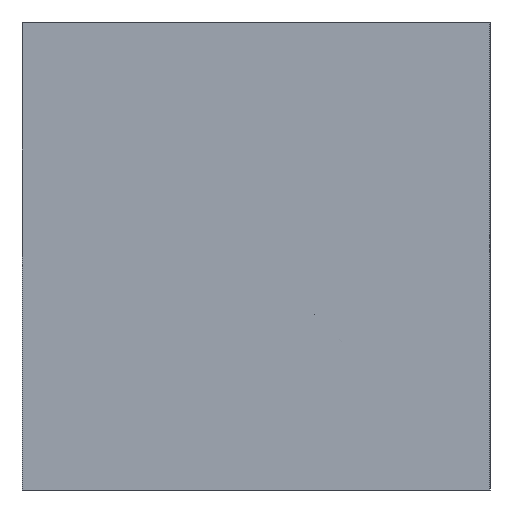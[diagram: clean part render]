
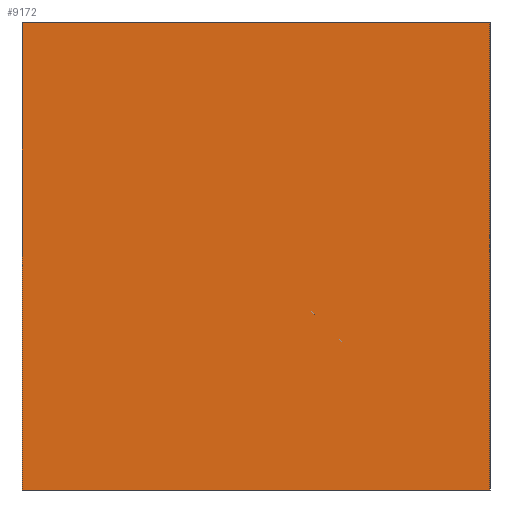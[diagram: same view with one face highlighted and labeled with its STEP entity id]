
A CAD part, left-side view. The second image highlights one B-rep face of the part: STEP entity #9172.
In plain terms, the highlighted planar face has unit normal (-1, 0, 0).
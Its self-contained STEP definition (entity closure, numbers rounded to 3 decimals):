
#380 = VECTOR ( 'NONE', #463, 1000. ) ;
#403 = VECTOR ( 'NONE', #1444, 1000. ) ;
#408 = LINE ( 'NONE', #665, #380 ) ;
#421 = LINE ( 'NONE', #2156, #403 ) ;
#463 = DIRECTION ( 'NONE',  ( 0., -1., 0. ) ) ;
#665 = CARTESIAN_POINT ( 'NONE',  ( 0., -31., 31. ) ) ;
#670 = FACE_OUTER_BOUND ( 'NONE', #5645, .T. ) ;
#729 = VECTOR ( 'NONE', #4609, 1000. ) ;
#760 = LINE ( 'NONE', #5827, #729 ) ;
#1444 = DIRECTION ( 'NONE',  ( 0., 1., 0. ) ) ;
#1697 = CARTESIAN_POINT ( 'NONE',  ( 0., 31., -31. ) ) ;
#1725 = VECTOR ( 'NONE', #2421, 1000. ) ;
#1757 = LINE ( 'NONE', #2179, #1725 ) ;
#1888 = VERTEX_POINT ( 'NONE', #6950 ) ;
#2156 = CARTESIAN_POINT ( 'NONE',  ( 0., -31., -31. ) ) ;
#2179 = CARTESIAN_POINT ( 'NONE',  ( 0., 31., 31. ) ) ;
#2219 = CARTESIAN_POINT ( 'NONE',  ( 0., -31., -31. ) ) ;
#2421 = DIRECTION ( 'NONE',  ( 0., 0., 1. ) ) ;
#3898 = VERTEX_POINT ( 'NONE', #2219 ) ;
#4411 = VERTEX_POINT ( 'NONE', #1697 ) ;
#4609 = DIRECTION ( 'NONE',  ( 0., 0., -1. ) ) ;
#5645 = EDGE_LOOP ( 'NONE', ( #9860, #9877, #11442, #11922 ) ) ;
#5827 = CARTESIAN_POINT ( 'NONE',  ( 0., -31., 31. ) ) ;
#6526 = EDGE_CURVE ( 'NONE', #4411, #7707, #1757, .T. ) ;
#6667 = DIRECTION ( 'NONE',  ( 0., 0., 1. ) ) ;
#6688 = DIRECTION ( 'NONE',  ( -1., 0., 0. ) ) ;
#6703 = CARTESIAN_POINT ( 'NONE',  ( 0., 31., -31. ) ) ;
#6770 = EDGE_CURVE ( 'NONE', #1888, #3898, #760, .T. ) ;
#6811 = EDGE_CURVE ( 'NONE', #3898, #4411, #421, .T. ) ;
#6816 = EDGE_CURVE ( 'NONE', #7707, #1888, #408, .T. ) ;
#6859 = PLANE ( 'NONE',  #9215 ) ;
#6950 = CARTESIAN_POINT ( 'NONE',  ( 0., -31., 31. ) ) ;
#7707 = VERTEX_POINT ( 'NONE', #7996 ) ;
#7996 = CARTESIAN_POINT ( 'NONE',  ( 0., 31., 31. ) ) ;
#9172 = ADVANCED_FACE ( 'NONE', ( #670 ), #6859, .T. ) ;
#9215 = AXIS2_PLACEMENT_3D ( 'NONE', #6703, #6688, #6667 ) ;
#9860 = ORIENTED_EDGE ( 'NONE', *, *, #6811, .F. ) ;
#9877 = ORIENTED_EDGE ( 'NONE', *, *, #6770, .F. ) ;
#11442 = ORIENTED_EDGE ( 'NONE', *, *, #6816, .F. ) ;
#11922 = ORIENTED_EDGE ( 'NONE', *, *, #6526, .F. ) ;
